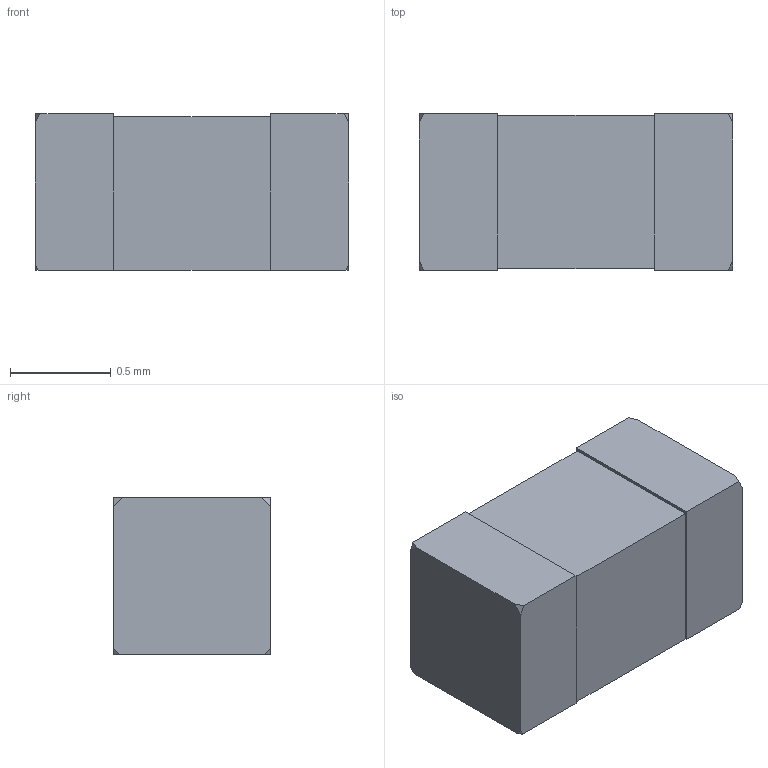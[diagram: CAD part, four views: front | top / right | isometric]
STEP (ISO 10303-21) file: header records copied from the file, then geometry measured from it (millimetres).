
FILE_DESCRIPTION(('FreeCAD Model'),'2;1');
FILE_NAME('Open CASCADE Shape Model','2021-06-29T02:49:04',('Author'),( ''),'Open CASCADE STEP processor 7.5','FreeCAD','Unknown');
FILE_SCHEMA(('AUTOMOTIVE_DESIGN { 1 0 10303 214 1 1 1 1 }'));
Length unit declared in the file: millimetre
Products named in the file (1): intersection
Bounding box: 1.55 x 0.78 x 0.78 mm (x, y, z)
Volume: 0.9 mm3; surface area: 6 mm2
Topology: 1 solids, 1 shells, 26 faces, 68 edges, 44 vertices
Faces by surface type: bspline 20, plane 6
Entity records: 2152 total; most frequent: CARTESIAN_POINT 985, B_SPLINE_CURVE_WITH_KNOTS 180, ORIENTED_EDGE 136, PCURVE 136, DEFINITIONAL_REPRESENTATION 136, EDGE_CURVE 68, SURFACE_CURVE 68, VERTEX_POINT 44
